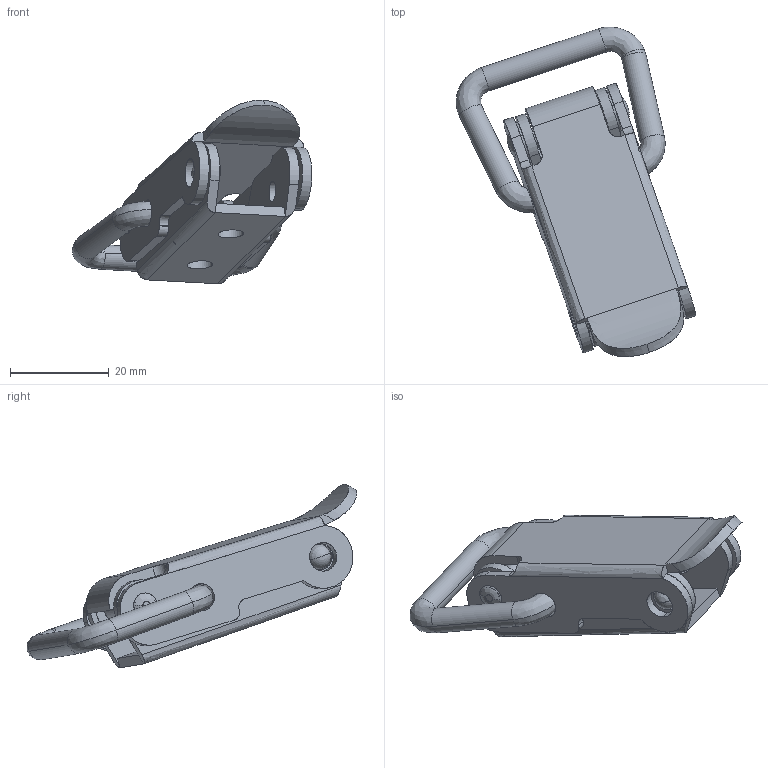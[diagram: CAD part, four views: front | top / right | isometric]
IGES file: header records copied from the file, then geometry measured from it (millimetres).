
Start section: SolidWorks IGES file using analytic representation for surfaces
Global section: file name: C:\Users\cbrechard\Desktop\GO 2032\GO 2032.IGS; native system: SolidWorks 2008; preprocessor: SolidWorks 2008; author: cbrechard; date: 130424.091236; units: millimetre
Bounding box: 48.65 x 66.94 x 37.27 mm (x, y, z)
Surface area: 11944.1 mm2 (no closed solid volume)
Topology: 0 solids, 0 shells, 214 faces, 3122 edges, 3091 vertices
Faces by surface type: revolution 131, bspline 83
